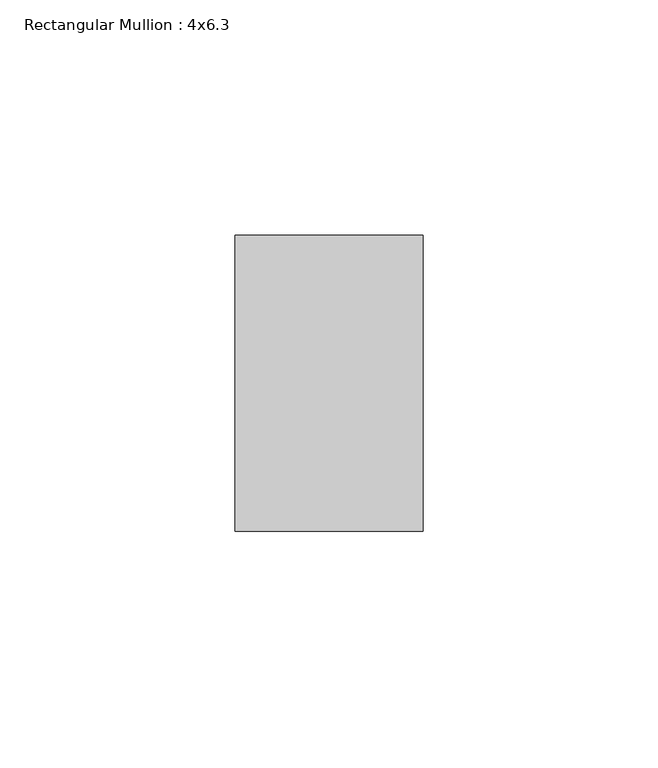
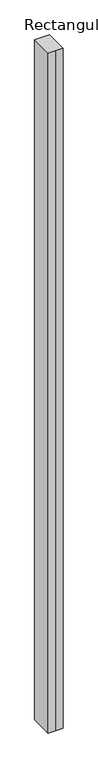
"""IFC4 building model written with IfcOpenShell, lengths in millimetres: member geometry, Rectangular Mullion : 4x6.3."""

from ifc_helpers import new_model, si_unit, frame, origin, place, context, project, spatial, polyline, outline, extrude, source, transform, mapped, element, save


def rectangular_mullion_4x6_3_31dcad91(model_context):
    return source(origin(), model_context, "Body", "SweptSolid", [
        extrude(outline(polyline([(-20.0, 20.0), (-20.0, 83.0), (20.0, 83.0), (20.0, 20.0), (0.0, 20.0), (-20.0, 20.0)])), frame((0.0, 0.0, -1923.5457853), z_axis=(0.0, 0.0, 1.0), x_axis=(1.0, 0.0, 0.0)), (0.0, 0.0, 1.0), 1923.5457853),
    ])


if __name__ == "__main__":
    model = new_model("IFC4")
    model_context = context("Model", 3, world=origin())
    ifc_project = project(units=[si_unit("LENGTHUNIT", "METRE", prefix="MILLI")], contexts=[model_context])
    site = spatial("IfcSite", under=ifc_project)
    building = spatial("IfcBuilding", under=site)
    placement = place(None, origin())
    rectangular_mullion_4x6_3_shape = rectangular_mullion_4x6_3_31dcad91(model_context)
    element("IfcMember", 1, ObjectType="Rectangular Mullion : 4x6.3", at=placement, inside=building, context=model_context, shape_type="MappedRepresentation", body=[
        mapped(rectangular_mullion_4x6_3_shape, transform((0.0, 0.0, 0.0), x_axis=(1.0, 0.0, 0.0), y_axis=(0.0, 1.0, 0.0), z_axis=(0.0, 0.0, 1.0))),
    ])
    save(model, "model.ifc")
